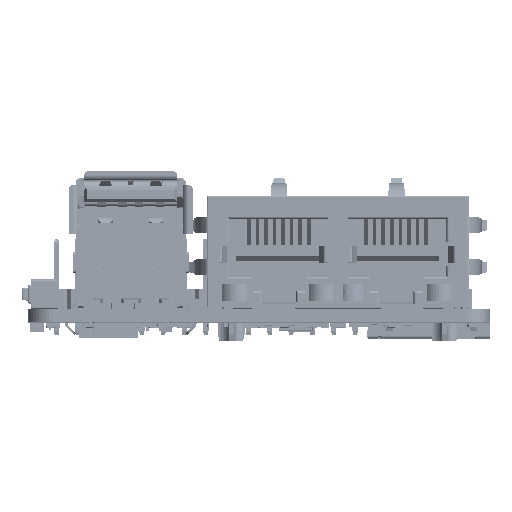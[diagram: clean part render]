
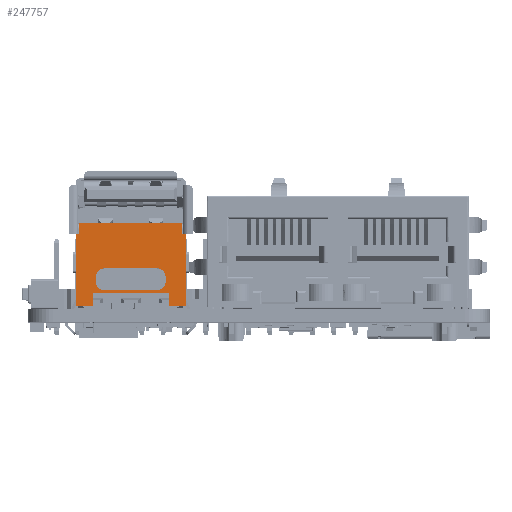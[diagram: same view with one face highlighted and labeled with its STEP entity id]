
A CAD part, top view. The second image highlights one B-rep face of the part: STEP entity #247757.
In plain terms, the highlighted planar face has unit normal (0, 0, 1) as drawn and (1, 0, 0) by its records, which use the part's own axes.
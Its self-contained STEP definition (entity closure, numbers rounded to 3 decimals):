
#220266=DIRECTION('',(0.,1.,0.));
#220267=VECTOR('',#220266,8.5);
#220268=CARTESIAN_POINT('',(9.03,0.29,-6.55));
#220269=LINE('',#220268,#220267);
#221935=DIRECTION('',(0.,-1.,0.));
#221936=VECTOR('',#221935,8.5);
#221937=CARTESIAN_POINT('',(9.03,8.79,6.55));
#221938=LINE('',#221937,#221936);
#230296=DIRECTION('',(0.,1.,0.));
#230297=VECTOR('',#230296,1.5);
#230298=CARTESIAN_POINT('',(9.03,0.29,4.55));
#230299=LINE('',#230298,#230297);
#230338=CARTESIAN_POINT('',(9.03,3.14,3.15));
#230339=DIRECTION('',(1.,0.,0.));
#230340=DIRECTION('',(0.,0.,1.));
#230341=AXIS2_PLACEMENT_3D('',#230338,#230339,#230340);
#230346=DIRECTION('',(0.,0.,-1.));
#230347=VECTOR('',#230346,6.3);
#230348=CARTESIAN_POINT('',(9.03,2.14,3.15));
#230349=LINE('',#230348,#230347);
#230353=CARTESIAN_POINT('',(9.03,3.14,-3.15));
#230354=DIRECTION('',(1.,0.,0.));
#230355=DIRECTION('',(0.,-1.,0.));
#230356=AXIS2_PLACEMENT_3D('',#230353,#230354,#230355);
#230361=DIRECTION('',(0.,1.,0.));
#230362=VECTOR('',#230361,0.59);
#230363=CARTESIAN_POINT('',(9.03,3.14,-4.15));
#230364=LINE('',#230363,#230362);
#230368=CARTESIAN_POINT('',(9.03,3.73,-3.15));
#230369=DIRECTION('',(1.,0.,0.));
#230370=DIRECTION('',(0.,0.,-1.));
#230371=AXIS2_PLACEMENT_3D('',#230368,#230369,#230370);
#230376=DIRECTION('',(0.,0.,1.));
#230377=VECTOR('',#230376,6.3);
#230378=CARTESIAN_POINT('',(9.03,4.73,-3.15));
#230379=LINE('',#230378,#230377);
#230383=CARTESIAN_POINT('',(9.03,3.73,3.15));
#230384=DIRECTION('',(1.,0.,0.));
#230385=DIRECTION('',(0.,1.,0.));
#230386=AXIS2_PLACEMENT_3D('',#230383,#230384,#230385);
#230391=DIRECTION('',(0.,-1.,0.));
#230392=VECTOR('',#230391,0.59);
#230393=CARTESIAN_POINT('',(9.03,3.73,4.15));
#230394=LINE('',#230393,#230392);
#230398=DIRECTION('',(0.,0.,-1.));
#230399=VECTOR('',#230398,2.);
#230400=CARTESIAN_POINT('',(9.03,0.29,6.55));
#230401=LINE('',#230400,#230399);
#230405=DIRECTION('',(0.,0.,1.));
#230406=VECTOR('',#230405,0.366);
#230407=CARTESIAN_POINT('',(9.03,8.79,6.184));
#230408=LINE('',#230407,#230406);
#230412=DIRECTION('',(0.,-1.,0.));
#230413=VECTOR('',#230412,1.29);
#230414=CARTESIAN_POINT('',(9.03,10.08,6.184));
#230415=LINE('',#230414,#230413);
#230419=DIRECTION('',(0.,0.,1.));
#230420=VECTOR('',#230419,12.332);
#230421=CARTESIAN_POINT('',(9.03,10.08,-6.148));
#230422=LINE('',#230421,#230420);
#230426=DIRECTION('',(0.,1.,0.));
#230427=VECTOR('',#230426,1.29);
#230428=CARTESIAN_POINT('',(9.03,8.79,-6.148));
#230429=LINE('',#230428,#230427);
#230433=DIRECTION('',(0.,0.,1.));
#230434=VECTOR('',#230433,0.402);
#230435=CARTESIAN_POINT('',(9.03,8.79,-6.55));
#230436=LINE('',#230435,#230434);
#230440=DIRECTION('',(0.,0.,-1.));
#230441=VECTOR('',#230440,2.);
#230442=CARTESIAN_POINT('',(9.03,0.29,-4.55));
#230443=LINE('',#230442,#230441);
#230447=DIRECTION('',(0.,0.,1.));
#230448=VECTOR('',#230447,9.1);
#230449=CARTESIAN_POINT('',(9.03,1.79,-4.55));
#230450=LINE('',#230449,#230448);
#230745=DIRECTION('',(0.,-1.,0.));
#230746=VECTOR('',#230745,1.5);
#230747=CARTESIAN_POINT('',(9.03,1.79,-4.55));
#230748=LINE('',#230747,#230746);
#239226=CARTESIAN_POINT('',(9.03,8.79,-6.55));
#239227=CARTESIAN_POINT('',(9.03,8.79,-6.148));
#239228=VERTEX_POINT('',#239226);
#239229=VERTEX_POINT('',#239227);
#239230=CARTESIAN_POINT('',(9.03,10.08,-6.148));
#239231=VERTEX_POINT('',#239230);
#239232=CARTESIAN_POINT('',(9.03,10.08,6.184));
#239233=VERTEX_POINT('',#239232);
#239234=CARTESIAN_POINT('',(9.03,8.79,6.184));
#239235=VERTEX_POINT('',#239234);
#239236=CARTESIAN_POINT('',(9.03,8.79,6.55));
#239237=VERTEX_POINT('',#239236);
#239332=CARTESIAN_POINT('',(9.03,1.79,-4.55));
#239333=CARTESIAN_POINT('',(9.03,1.79,4.55));
#239334=VERTEX_POINT('',#239332);
#239335=VERTEX_POINT('',#239333);
#239352=CARTESIAN_POINT('',(9.03,3.14,4.15));
#239353=CARTESIAN_POINT('',(9.03,2.14,3.15));
#239354=VERTEX_POINT('',#239352);
#239355=VERTEX_POINT('',#239353);
#239356=CARTESIAN_POINT('',(9.03,2.14,-3.15));
#239357=VERTEX_POINT('',#239356);
#239358=CARTESIAN_POINT('',(9.03,3.14,-4.15));
#239359=VERTEX_POINT('',#239358);
#239360=CARTESIAN_POINT('',(9.03,3.73,-4.15));
#239361=VERTEX_POINT('',#239360);
#239362=CARTESIAN_POINT('',(9.03,4.73,-3.15));
#239363=VERTEX_POINT('',#239362);
#239364=CARTESIAN_POINT('',(9.03,4.73,3.15));
#239365=VERTEX_POINT('',#239364);
#239366=CARTESIAN_POINT('',(9.03,3.73,4.15));
#239367=VERTEX_POINT('',#239366);
#239384=CARTESIAN_POINT('',(9.03,0.29,6.55));
#239385=CARTESIAN_POINT('',(9.03,0.29,4.55));
#239386=VERTEX_POINT('',#239384);
#239387=VERTEX_POINT('',#239385);
#239388=CARTESIAN_POINT('',(9.03,0.29,-4.55));
#239389=CARTESIAN_POINT('',(9.03,0.29,-6.55));
#239390=VERTEX_POINT('',#239388);
#239391=VERTEX_POINT('',#239389);
#247715=CARTESIAN_POINT('',(9.03,0.,0.));
#247716=DIRECTION('',(1.,0.,0.));
#247717=DIRECTION('',(0.,1.,0.));
#247718=AXIS2_PLACEMENT_3D('',#247715,#247716,#247717);
#247719=PLANE('',#247718);
#247720=ORIENTED_EDGE('',*,*,#247680,.F.);
#247722=ORIENTED_EDGE('',*,*,#247721,.F.);
#247723=ORIENTED_EDGE('',*,*,#240883,.F.);
#247725=ORIENTED_EDGE('',*,*,#247724,.F.);
#247727=ORIENTED_EDGE('',*,*,#247726,.F.);
#247728=ORIENTED_EDGE('',*,*,#241704,.F.);
#247729=ORIENTED_EDGE('',*,*,#242146,.F.);
#247730=ORIENTED_EDGE('',*,*,#242360,.F.);
#247731=ORIENTED_EDGE('',*,*,#239610,.F.);
#247733=ORIENTED_EDGE('',*,*,#247732,.F.);
#247735=ORIENTED_EDGE('',*,*,#247734,.F.);
#247736=ORIENTED_EDGE('',*,*,#247706,.T.);
#247737=EDGE_LOOP('',(#247720,#247722,#247723,#247725,#247727,#247728,#247729,
#247730,#247731,#247733,#247735,#247736));
#247738=FACE_OUTER_BOUND('',#247737,.F.);
#247740=ORIENTED_EDGE('',*,*,#247739,.T.);
#247742=ORIENTED_EDGE('',*,*,#247741,.T.);
#247744=ORIENTED_EDGE('',*,*,#247743,.T.);
#247746=ORIENTED_EDGE('',*,*,#247745,.T.);
#247748=ORIENTED_EDGE('',*,*,#247747,.T.);
#247750=ORIENTED_EDGE('',*,*,#247749,.T.);
#247752=ORIENTED_EDGE('',*,*,#247751,.T.);
#247754=ORIENTED_EDGE('',*,*,#247753,.T.);
#247755=EDGE_LOOP('',(#247740,#247742,#247744,#247746,#247748,#247750,#247752,
#247754));
#247756=FACE_BOUND('',#247755,.F.);
#247757=ADVANCED_FACE('',(#247738,#247756),#247719,.T.);
#230342=CIRCLE('',#230341,1.);
#230357=CIRCLE('',#230356,1.);
#230372=CIRCLE('',#230371,1.);
#230387=CIRCLE('',#230386,1.);
#239610=EDGE_CURVE('',#239391,#239228,#220269,.T.);
#240883=EDGE_CURVE('',#239237,#239386,#221938,.T.);
#241704=EDGE_CURVE('',#239231,#239233,#230422,.T.);
#242146=EDGE_CURVE('',#239229,#239231,#230429,.T.);
#242360=EDGE_CURVE('',#239228,#239229,#230436,.T.);
#247680=EDGE_CURVE('',#239387,#239335,#230299,.T.);
#247706=EDGE_CURVE('',#239334,#239335,#230450,.T.);
#247721=EDGE_CURVE('',#239386,#239387,#230401,.T.);
#247724=EDGE_CURVE('',#239235,#239237,#230408,.T.);
#247726=EDGE_CURVE('',#239233,#239235,#230415,.T.);
#247732=EDGE_CURVE('',#239390,#239391,#230443,.T.);
#247734=EDGE_CURVE('',#239334,#239390,#230748,.T.);
#247739=EDGE_CURVE('',#239354,#239355,#230342,.T.);
#247741=EDGE_CURVE('',#239355,#239357,#230349,.T.);
#247743=EDGE_CURVE('',#239357,#239359,#230357,.T.);
#247745=EDGE_CURVE('',#239359,#239361,#230364,.T.);
#247747=EDGE_CURVE('',#239361,#239363,#230372,.T.);
#247749=EDGE_CURVE('',#239363,#239365,#230379,.T.);
#247751=EDGE_CURVE('',#239365,#239367,#230387,.T.);
#247753=EDGE_CURVE('',#239367,#239354,#230394,.T.);
